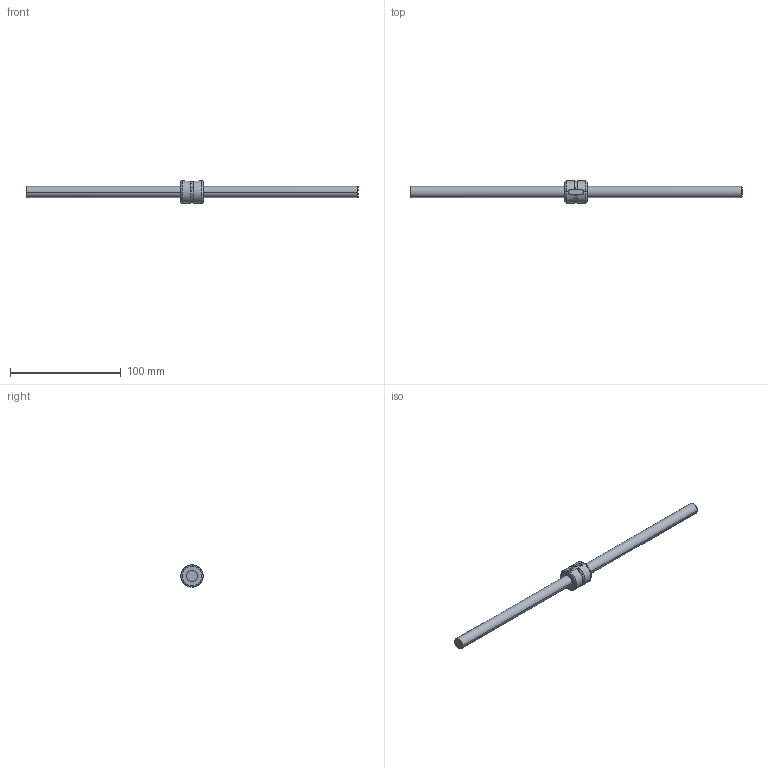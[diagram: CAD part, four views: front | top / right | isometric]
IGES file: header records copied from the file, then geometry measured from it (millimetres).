
Global section: file name: No Iges File Name specified; native system: AutoDesk Inventor R10; preprocessor: AutoDesk Inventor Iges Exporter R10; author: No Author specified; organization: No Organization specified; date: 20101224.154947; units: millimetre
Bounding box: 300 x 20 x 20 mm (x, y, z)
Surface area: 11968.6 mm2 (no closed solid volume)
Topology: 0 solids, 0 shells, 27 faces, 268 edges, 268 vertices
Faces by surface type: bspline 27
